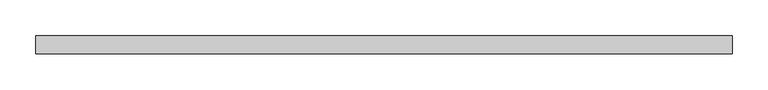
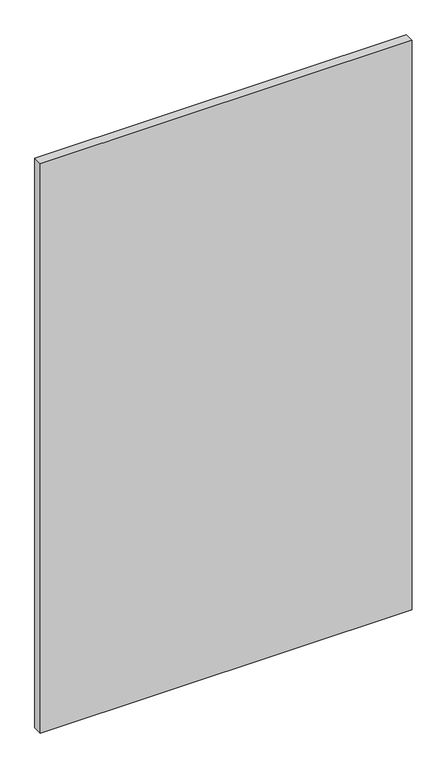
"""IFC4 building model written with IfcOpenShell, lengths in millimetres: plate geometry, 系统嵌板 : 玻璃."""

from ifc_helpers import new_model, si_unit, origin, origin_with_axes, place, context, project, spatial, polyline, outline, extrude, source, transform, mapped, element, save


def plate_2229b9dc(model_context):
    return source(origin(), model_context, "Body", "SweptSolid", [
        extrude(outline(polyline([(485.0, -12.5), (-485.0, -12.5), (-485.0, 12.5), (485.0, 12.5), (485.0, -12.5)])), origin_with_axes(), (0.0, 0.0, 1.0), 1570.0),
    ])


if __name__ == "__main__":
    model = new_model("IFC4")
    model_context = context("Model", 3, world=origin())
    ifc_project = project(units=[si_unit("LENGTHUNIT", "METRE", prefix="MILLI")], contexts=[model_context])
    site = spatial("IfcSite", under=ifc_project)
    building = spatial("IfcBuilding", under=site)
    placement = place(None, origin())
    plate_shape = plate_2229b9dc(model_context)
    element("IfcPlate", 1, ObjectType="系统嵌板 : 玻璃", at=placement, inside=building, context=model_context, shape_type="MappedRepresentation", body=[
        mapped(plate_shape, transform((0.0, 0.0, 0.0), x_axis=(1.0, 0.0, 0.0), y_axis=(0.0, 1.0, 0.0), z_axis=(0.0, 0.0, 1.0))),
    ])
    save(model, "model.ifc")
